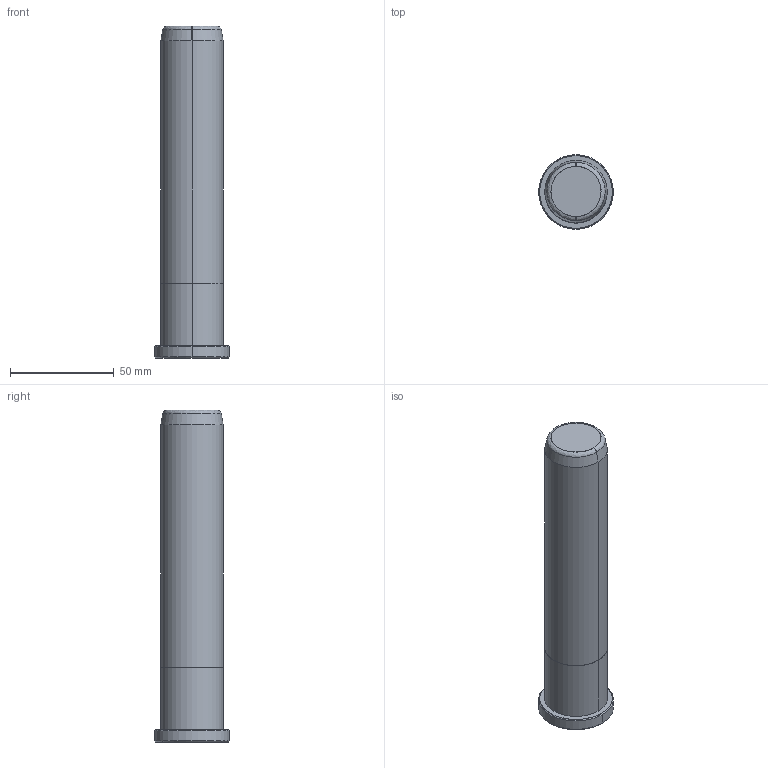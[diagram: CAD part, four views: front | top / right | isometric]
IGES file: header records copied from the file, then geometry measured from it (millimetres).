
Start section: START RECORD GO HERE.
Global section: file name: B82830160.igs; native system: DASSAULT SYSTEMES CATIA V5 R20 - www.3ds.com; preprocessor: CATIA Version 5 Release 20 ; author: Utente; organization: NB04-ASUS; date: 20200419.173331; units: millimetre
Bounding box: 36 x 36 x 160 mm (x, y, z)
Surface area: 16984.4 mm2 (no closed solid volume)
Topology: 0 solids, 0 shells, 20 faces, 80 edges, 80 vertices
Faces by surface type: revolution 16, plane 4
